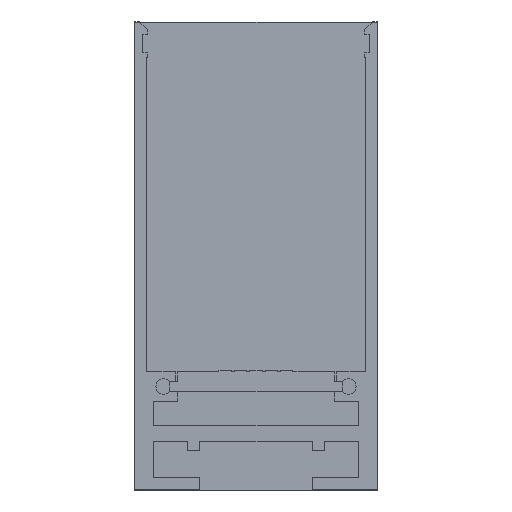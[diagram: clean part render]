
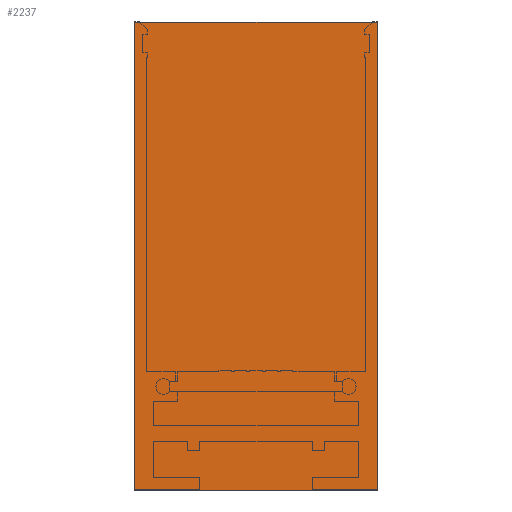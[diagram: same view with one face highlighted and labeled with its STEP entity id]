
A CAD part, front view. The second image highlights one B-rep face of the part: STEP entity #2237.
In plain terms, the highlighted planar face has unit normal (0, -1, 0) as drawn and (0, 1, 0) by its records, which use the part's own axes.
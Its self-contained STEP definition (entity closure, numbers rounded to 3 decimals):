
#65=FACE_OUTER_BOUND('',#186,.T.);
#186=EDGE_LOOP('',(#1557,#1558,#1559,#1560));
#331=LINE('',#3153,#648);
#336=LINE('',#3164,#653);
#338=LINE('',#3167,#655);
#339=LINE('',#3168,#656);
#648=VECTOR('',#2571,304.8);
#653=VECTOR('',#2580,304.8);
#655=VECTOR('',#2584,304.8);
#656=VECTOR('',#2585,304.8);
#947=VERTEX_POINT('',#3147);
#949=VERTEX_POINT('',#3151);
#952=VERTEX_POINT('',#3161);
#953=VERTEX_POINT('',#3163);
#1179=EDGE_CURVE('',#947,#949,#331,.T.);
#1184=EDGE_CURVE('',#953,#952,#336,.T.);
#1186=EDGE_CURVE('',#947,#952,#338,.T.);
#1187=EDGE_CURVE('',#953,#949,#339,.T.);
#1557=ORIENTED_EDGE('',*,*,#1186,.F.);
#1558=ORIENTED_EDGE('',*,*,#1179,.T.);
#1559=ORIENTED_EDGE('',*,*,#1187,.F.);
#1560=ORIENTED_EDGE('',*,*,#1184,.T.);
#2118=PLANE('',#2367);
#2237=ADVANCED_FACE('',(#65),#2118,.T.);
#2367=AXIS2_PLACEMENT_3D('',#3166,#2582,#2583);
#2571=DIRECTION('',(0.,0.,-1.));
#2580=DIRECTION('',(0.,0.,1.));
#2582=DIRECTION('center_axis',(0.,1.,0.));
#2583=DIRECTION('ref_axis',(0.,0.,-1.));
#2584=DIRECTION('',(-1.,0.,0.));
#2585=DIRECTION('',(1.,0.,0.));
#3147=CARTESIAN_POINT('',(19.7,252.,76.));
#3151=CARTESIAN_POINT('',(19.7,252.,0.));
#3153=CARTESIAN_POINT('',(19.7,252.,76.));
#3161=CARTESIAN_POINT('',(-19.7,252.,76.));
#3163=CARTESIAN_POINT('',(-19.7,252.,0.));
#3164=CARTESIAN_POINT('',(-19.7,252.,0.));
#3166=CARTESIAN_POINT('Origin',(19.7,252.,76.));
#3167=CARTESIAN_POINT('',(19.7,252.,76.));
#3168=CARTESIAN_POINT('',(-19.7,252.,0.));
